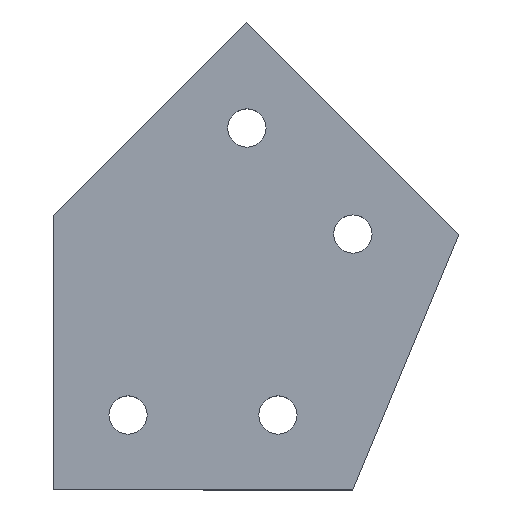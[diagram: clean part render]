
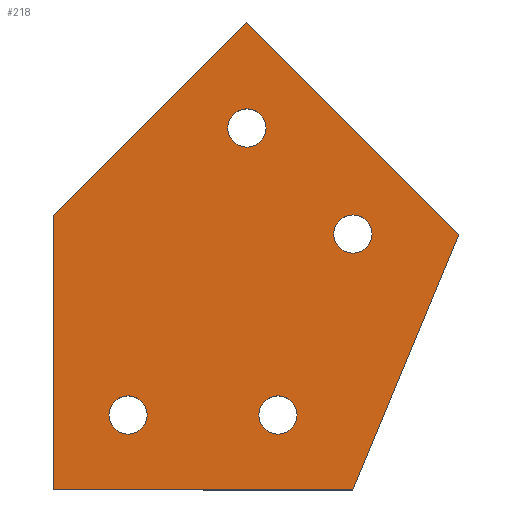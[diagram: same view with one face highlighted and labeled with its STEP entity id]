
A CAD part, top view. The second image highlights one B-rep face of the part: STEP entity #218.
In plain terms, the highlighted planar face has unit normal (0, 0, 1).
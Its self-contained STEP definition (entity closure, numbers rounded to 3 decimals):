
#15=FACE_BOUND('',#51,.T.);
#16=FACE_BOUND('',#52,.T.);
#17=FACE_BOUND('',#53,.T.);
#18=FACE_BOUND('',#54,.T.);
#28=PLANE('',#251);
#39=FACE_OUTER_BOUND('',#50,.T.);
#50=EDGE_LOOP('',(#187,#188,#189,#190,#191));
#51=EDGE_LOOP('',(#192));
#52=EDGE_LOOP('',(#193));
#53=EDGE_LOOP('',(#194));
#54=EDGE_LOOP('',(#195));
#66=LINE('',#344,#85);
#69=LINE('',#350,#88);
#72=LINE('',#356,#91);
#75=LINE('',#362,#94);
#78=LINE('',#366,#97);
#85=VECTOR('',#287,10.);
#88=VECTOR('',#292,10.);
#91=VECTOR('',#297,10.);
#94=VECTOR('',#302,10.);
#97=VECTOR('',#307,10.);
#99=CIRCLE('',#236,2.55);
#101=CIRCLE('',#239,2.55);
#103=CIRCLE('',#242,2.55);
#105=CIRCLE('',#245,2.55);
#107=VERTEX_POINT('',#316);
#109=VERTEX_POINT('',#322);
#111=VERTEX_POINT('',#328);
#113=VERTEX_POINT('',#334);
#116=VERTEX_POINT('',#341);
#117=VERTEX_POINT('',#343);
#119=VERTEX_POINT('',#349);
#121=VERTEX_POINT('',#355);
#123=VERTEX_POINT('',#361);
#126=EDGE_CURVE('',#107,#107,#99,.T.);
#129=EDGE_CURVE('',#109,#109,#101,.T.);
#132=EDGE_CURVE('',#111,#111,#103,.T.);
#135=EDGE_CURVE('',#113,#113,#105,.T.);
#138=EDGE_CURVE('',#117,#116,#66,.T.);
#141=EDGE_CURVE('',#119,#117,#69,.T.);
#144=EDGE_CURVE('',#121,#119,#72,.T.);
#147=EDGE_CURVE('',#123,#121,#75,.T.);
#150=EDGE_CURVE('',#116,#123,#78,.T.);
#187=ORIENTED_EDGE('',*,*,#150,.T.);
#188=ORIENTED_EDGE('',*,*,#147,.T.);
#189=ORIENTED_EDGE('',*,*,#144,.T.);
#190=ORIENTED_EDGE('',*,*,#141,.T.);
#191=ORIENTED_EDGE('',*,*,#138,.T.);
#192=ORIENTED_EDGE('',*,*,#135,.T.);
#193=ORIENTED_EDGE('',*,*,#132,.T.);
#194=ORIENTED_EDGE('',*,*,#129,.T.);
#195=ORIENTED_EDGE('',*,*,#126,.T.);
#218=ADVANCED_FACE('',(#39,#15,#16,#17,#18),#28,.T.);
#236=AXIS2_PLACEMENT_3D('',#318,#260,#261);
#239=AXIS2_PLACEMENT_3D('',#324,#267,#268);
#242=AXIS2_PLACEMENT_3D('',#330,#274,#275);
#245=AXIS2_PLACEMENT_3D('',#336,#281,#282);
#251=AXIS2_PLACEMENT_3D('',#367,#308,#309);
#260=DIRECTION('center_axis',(0.,0.,-1.));
#261=DIRECTION('ref_axis',(1.,0.,0.));
#267=DIRECTION('center_axis',(0.,0.,-1.));
#268=DIRECTION('ref_axis',(1.,0.,0.));
#274=DIRECTION('center_axis',(0.,0.,-1.));
#275=DIRECTION('ref_axis',(1.,0.,0.));
#281=DIRECTION('center_axis',(0.,0.,-1.));
#282=DIRECTION('ref_axis',(1.,0.,0.));
#287=DIRECTION('',(1.,0.,0.));
#292=DIRECTION('',(0.,-1.,0.));
#297=DIRECTION('',(-0.707,-0.707,0.));
#302=DIRECTION('',(-0.707,0.707,0.));
#307=DIRECTION('',(0.383,0.924,0.));
#308=DIRECTION('center_axis',(0.,0.,1.));
#309=DIRECTION('ref_axis',(1.,0.,0.));
#316=CARTESIAN_POINT('',(-117.55,10.,4.));
#318=CARTESIAN_POINT('Origin',(-115.,10.,4.));
#322=CARTESIAN_POINT('',(-97.55,10.,4.));
#324=CARTESIAN_POINT('Origin',(-95.,10.,4.));
#328=CARTESIAN_POINT('',(-101.692,48.284,4.));
#330=CARTESIAN_POINT('Origin',(-99.142,48.284,4.));
#334=CARTESIAN_POINT('',(-87.55,34.142,4.));
#336=CARTESIAN_POINT('Origin',(-85.,34.142,4.));
#341=CARTESIAN_POINT('',(-85.,0.,4.));
#343=CARTESIAN_POINT('',(-125.,0.,4.));
#344=CARTESIAN_POINT('',(-85.,0.,4.));
#349=CARTESIAN_POINT('',(-125.,36.568,4.));
#350=CARTESIAN_POINT('',(-125.,0.,4.));
#355=CARTESIAN_POINT('',(-99.142,62.426,4.));
#356=CARTESIAN_POINT('',(-99.142,62.426,4.));
#361=CARTESIAN_POINT('',(-70.858,34.142,4.));
#362=CARTESIAN_POINT('',(-70.858,34.142,4.));
#366=CARTESIAN_POINT('',(-85.,0.,4.));
#367=CARTESIAN_POINT('Origin',(-97.929,31.213,4.));
